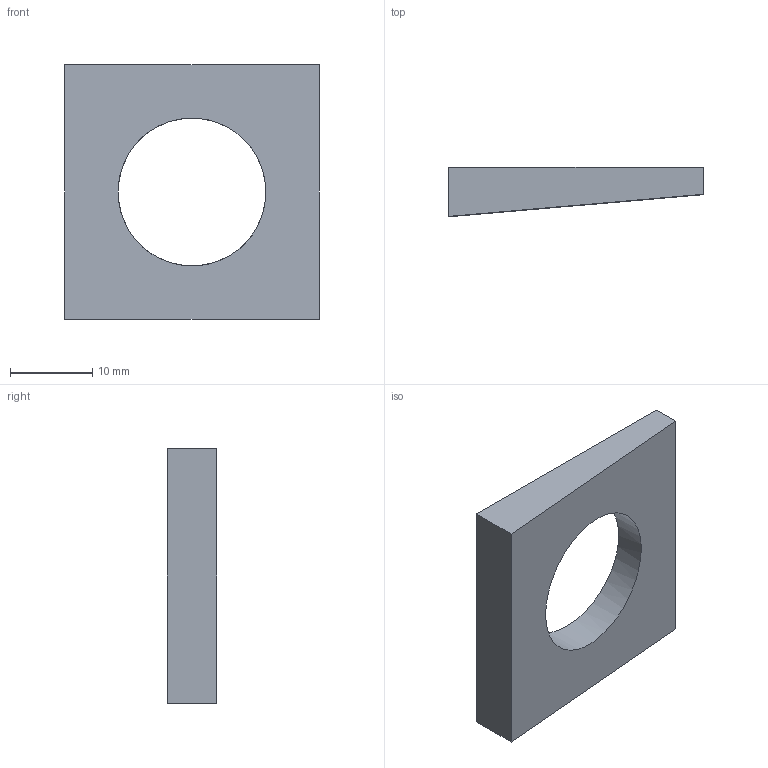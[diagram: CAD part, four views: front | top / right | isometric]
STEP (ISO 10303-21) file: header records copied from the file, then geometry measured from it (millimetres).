
FILE_DESCRIPTION(/* description */ (''),/* implementation_level */ '2;1');
FILE_NAME(/* name */ 'C:\Users\D\Documents\Inventor\HP\JIS\締結部品\座金\テーパ座金5°\tw5-m14.stp',/* time_stamp */ '2024-09-27T15:45:22+09:00',/* author */ ('D'),/* organization */ (''),/* preprocessor_version */ 'ST-DEVELOPER v18',/* originating_system */ 'Autodesk Inventor 2020',/* authorisation */ '');
FILE_SCHEMA (('AUTOMOTIVE_DESIGN { 1 0 10303 214 3 1 1 }'));
Length unit declared in the file: millimetre
Products named in the file (1): tw5-m5
Bounding box: 31 x 6 x 31 mm (x, y, z)
Volume: 3284.7 mm3; surface area: 2255.1 mm2
Topology: 1 solids, 1 shells, 7 faces, 16 edges, 11 vertices
Faces by surface type: plane 6, cylinder 1
Full cylindrical faces by diameter (mm): 18 x1
Entity records: 246 total; most frequent: DIRECTION 35, CARTESIAN_POINT 35, ORIENTED_EDGE 32, EDGE_CURVE 16, LINE 13, VECTOR 13, VERTEX_POINT 11, AXIS2_PLACEMENT_3D 11
